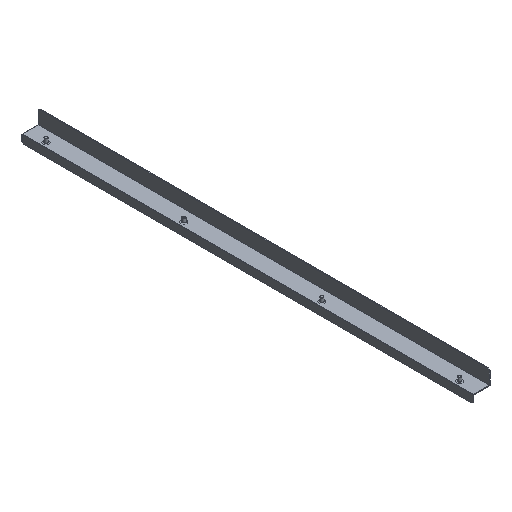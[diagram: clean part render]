
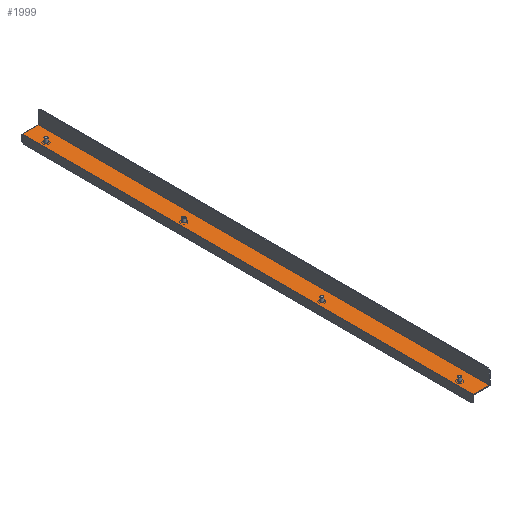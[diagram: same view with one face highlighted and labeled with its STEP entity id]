
A CAD part, isometric view. The second image highlights one B-rep face of the part: STEP entity #1999.
In plain terms, the highlighted planar face has unit normal (0, 0, 1).
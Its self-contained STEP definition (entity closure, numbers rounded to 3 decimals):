
#28 = DIRECTION ( 'NONE',  ( -1., 0., 0. ) ) ;
#121 = EDGE_CURVE ( 'NONE', #551, #3676, #1500, .T. ) ;
#156 = CARTESIAN_POINT ( 'NONE',  ( -66.513, 155.344, -6. ) ) ;
#239 = ORIENTED_EDGE ( 'NONE', *, *, #4318, .F. ) ;
#257 = VERTEX_POINT ( 'NONE', #1271 ) ;
#264 = FACE_BOUND ( 'NONE', #1101, .T. ) ;
#265 = CIRCLE ( 'NONE', #3702, 3.25 ) ;
#383 = VERTEX_POINT ( 'NONE', #4218 ) ;
#384 = CIRCLE ( 'NONE', #3596, 3.25 ) ;
#396 = DIRECTION ( 'NONE',  ( 0., 0., -1. ) ) ;
#411 = EDGE_CURVE ( 'NONE', #3611, #670, #4285, .T. ) ;
#449 = CARTESIAN_POINT ( 'NONE',  ( -69.763, -394.656, -6. ) ) ;
#510 = CIRCLE ( 'NONE', #2972, 3.25 ) ;
#523 = DIRECTION ( 'NONE',  ( 0., 0., -1. ) ) ;
#529 = DIRECTION ( 'NONE',  ( 0., 0., -1. ) ) ;
#536 = DIRECTION ( 'NONE',  ( 0., 0., -1. ) ) ;
#540 = LINE ( 'NONE', #1539, #4386 ) ;
#551 = VERTEX_POINT ( 'NONE', #1100 ) ;
#605 = FACE_BOUND ( 'NONE', #2836, .T. ) ;
#623 = CIRCLE ( 'NONE', #931, 3.25 ) ;
#650 = CARTESIAN_POINT ( 'NONE',  ( -66.513, -432.156, -6. ) ) ;
#670 = VERTEX_POINT ( 'NONE', #1489 ) ;
#699 = ORIENTED_EDGE ( 'NONE', *, *, #2670, .T. ) ;
#704 = CIRCLE ( 'NONE', #2208, 3.25 ) ;
#714 = VERTEX_POINT ( 'NONE', #2266 ) ;
#861 = CIRCLE ( 'NONE', #2129, 3.25 ) ;
#868 = ORIENTED_EDGE ( 'NONE', *, *, #3666, .T. ) ;
#928 = CARTESIAN_POINT ( 'NONE',  ( -45.013, 17.844, -6. ) ) ;
#931 = AXIS2_PLACEMENT_3D ( 'NONE', #156, #529, #2197 ) ;
#954 = DIRECTION ( 'NONE',  ( 0., 0., -1. ) ) ;
#1004 = AXIS2_PLACEMENT_3D ( 'NONE', #2403, #523, #4450 ) ;
#1045 = CARTESIAN_POINT ( 'NONE',  ( -66.513, -394.656, -6. ) ) ;
#1100 = CARTESIAN_POINT ( 'NONE',  ( -74.513, 467.844, -6. ) ) ;
#1101 = EDGE_LOOP ( 'NONE', ( #1953, #3111 ) ) ;
#1102 = EDGE_CURVE ( 'NONE', #1715, #383, #540, .T. ) ;
#1120 = CARTESIAN_POINT ( 'NONE',  ( -66.513, 155.344, -6. ) ) ;
#1132 = CARTESIAN_POINT ( 'NONE',  ( -45.013, 467.844, -6. ) ) ;
#1156 = VECTOR ( 'NONE', #1640, 1000. ) ;
#1227 = DIRECTION ( 'NONE',  ( 0., 0., -1. ) ) ;
#1247 = VERTEX_POINT ( 'NONE', #2444 ) ;
#1261 = EDGE_CURVE ( 'NONE', #3970, #1671, #510, .T. ) ;
#1271 = CARTESIAN_POINT ( 'NONE',  ( -45.013, 467.844, -6. ) ) ;
#1419 = LINE ( 'NONE', #2822, #3630 ) ;
#1445 = VERTEX_POINT ( 'NONE', #449 ) ;
#1487 = CARTESIAN_POINT ( 'NONE',  ( -74.513, 467.844, -6. ) ) ;
#1489 = CARTESIAN_POINT ( 'NONE',  ( -45.013, -432.156, -6. ) ) ;
#1500 = LINE ( 'NONE', #1132, #4311 ) ;
#1510 = DIRECTION ( 'NONE',  ( -1., 0., 0. ) ) ;
#1539 = CARTESIAN_POINT ( 'NONE',  ( -77.013, 17.844, -6. ) ) ;
#1570 = ORIENTED_EDGE ( 'NONE', *, *, #3625, .T. ) ;
#1572 = CARTESIAN_POINT ( 'NONE',  ( -46.013, -432.156, -6. ) ) ;
#1593 = CIRCLE ( 'NONE', #1004, 3.25 ) ;
#1600 = VECTOR ( 'NONE', #2089, 1000. ) ;
#1621 = CARTESIAN_POINT ( 'NONE',  ( -77.013, -432.156, -6. ) ) ;
#1640 = DIRECTION ( 'NONE',  ( 1., 0., 0. ) ) ;
#1671 = VERTEX_POINT ( 'NONE', #1689 ) ;
#1689 = CARTESIAN_POINT ( 'NONE',  ( -63.263, -119.656, -6. ) ) ;
#1698 = DIRECTION ( 'NONE',  ( 1., 0., 0. ) ) ;
#1715 = VERTEX_POINT ( 'NONE', #1621 ) ;
#1740 = CIRCLE ( 'NONE', #2638, 3.25 ) ;
#1763 = VERTEX_POINT ( 'NONE', #2510 ) ;
#1782 = ORIENTED_EDGE ( 'NONE', *, *, #2707, .F. ) ;
#1918 = CARTESIAN_POINT ( 'NONE',  ( -66.513, 467.844, -6. ) ) ;
#1953 = ORIENTED_EDGE ( 'NONE', *, *, #3520, .T. ) ;
#1962 = LINE ( 'NONE', #928, #4045 ) ;
#1999 = ADVANCED_FACE ( 'NONE', ( #2957, #2041, #605, #264, #2385 ), #3462, .T. ) ;
#2041 = FACE_BOUND ( 'NONE', #4492, .T. ) ;
#2089 = DIRECTION ( 'NONE',  ( -1., 0., 0. ) ) ;
#2114 = VECTOR ( 'NONE', #3938, 1000. ) ;
#2129 = AXIS2_PLACEMENT_3D ( 'NONE', #1120, #396, #2543 ) ;
#2197 = DIRECTION ( 'NONE',  ( 1., 0., 0. ) ) ;
#2208 = AXIS2_PLACEMENT_3D ( 'NONE', #4431, #1227, #3576 ) ;
#2214 = DIRECTION ( 'NONE',  ( 1., 0., 0. ) ) ;
#2266 = CARTESIAN_POINT ( 'NONE',  ( -74.513, -432.156, -6. ) ) ;
#2323 = ORIENTED_EDGE ( 'NONE', *, *, #1261, .T. ) ;
#2363 = CARTESIAN_POINT ( 'NONE',  ( -69.763, 155.344, -6. ) ) ;
#2385 = FACE_OUTER_BOUND ( 'NONE', #2485, .T. ) ;
#2403 = CARTESIAN_POINT ( 'NONE',  ( -66.513, 430.344, -6. ) ) ;
#2423 = DIRECTION ( 'NONE',  ( 0., 0., -1. ) ) ;
#2444 = CARTESIAN_POINT ( 'NONE',  ( -63.263, 430.344, -6. ) ) ;
#2485 = EDGE_LOOP ( 'NONE', ( #3170, #699, #3513, #239, #3390, #4514, #3963, #1782 ) ) ;
#2505 = CARTESIAN_POINT ( 'NONE',  ( -46.013, -432.156, -6. ) ) ;
#2510 = CARTESIAN_POINT ( 'NONE',  ( -63.263, 155.344, -6. ) ) ;
#2518 = CARTESIAN_POINT ( 'NONE',  ( -69.763, 430.344, -6. ) ) ;
#2543 = DIRECTION ( 'NONE',  ( 1., 0., 0. ) ) ;
#2638 = AXIS2_PLACEMENT_3D ( 'NONE', #3407, #536, #3742 ) ;
#2670 = EDGE_CURVE ( 'NONE', #551, #383, #3997, .T. ) ;
#2690 = VERTEX_POINT ( 'NONE', #2518 ) ;
#2707 = EDGE_CURVE ( 'NONE', #3676, #257, #4042, .T. ) ;
#2711 = EDGE_CURVE ( 'NONE', #2690, #1247, #1740, .T. ) ;
#2748 = EDGE_CURVE ( 'NONE', #257, #670, #1962, .T. ) ;
#2822 = CARTESIAN_POINT ( 'NONE',  ( -77.013, -432.156, -6. ) ) ;
#2836 = EDGE_LOOP ( 'NONE', ( #3148, #1570 ) ) ;
#2867 = EDGE_CURVE ( 'NONE', #4476, #1445, #384, .T. ) ;
#2930 = DIRECTION ( 'NONE',  ( 1., 0., 0. ) ) ;
#2935 = CARTESIAN_POINT ( 'NONE',  ( -66.513, -119.656, -6. ) ) ;
#2957 = FACE_BOUND ( 'NONE', #3252, .T. ) ;
#2972 = AXIS2_PLACEMENT_3D ( 'NONE', #3879, #2423, #1698 ) ;
#3107 = LINE ( 'NONE', #650, #1600 ) ;
#3111 = ORIENTED_EDGE ( 'NONE', *, *, #3658, .T. ) ;
#3128 = ORIENTED_EDGE ( 'NONE', *, *, #3359, .T. ) ;
#3140 = DIRECTION ( 'NONE',  ( 1., 0., 0. ) ) ;
#3148 = ORIENTED_EDGE ( 'NONE', *, *, #2867, .T. ) ;
#3170 = ORIENTED_EDGE ( 'NONE', *, *, #121, .F. ) ;
#3227 = CARTESIAN_POINT ( 'NONE',  ( -69.763, -119.656, -6. ) ) ;
#3234 = DIRECTION ( 'NONE',  ( 0., 0., 1. ) ) ;
#3240 = VECTOR ( 'NONE', #1510, 1000. ) ;
#3252 = EDGE_LOOP ( 'NONE', ( #3128, #3679 ) ) ;
#3359 = EDGE_CURVE ( 'NONE', #1247, #2690, #1593, .T. ) ;
#3361 = DIRECTION ( 'NONE',  ( 0., -1., 0. ) ) ;
#3390 = ORIENTED_EDGE ( 'NONE', *, *, #3984, .F. ) ;
#3407 = CARTESIAN_POINT ( 'NONE',  ( -66.513, 430.344, -6. ) ) ;
#3462 = PLANE ( 'NONE',  #3926 ) ;
#3513 = ORIENTED_EDGE ( 'NONE', *, *, #1102, .F. ) ;
#3520 = EDGE_CURVE ( 'NONE', #1763, #4409, #623, .T. ) ;
#3576 = DIRECTION ( 'NONE',  ( 1., 0., 0. ) ) ;
#3596 = AXIS2_PLACEMENT_3D ( 'NONE', #1045, #954, #3140 ) ;
#3611 = VERTEX_POINT ( 'NONE', #1572 ) ;
#3625 = EDGE_CURVE ( 'NONE', #1445, #4476, #704, .T. ) ;
#3630 = VECTOR ( 'NONE', #28, 1000. ) ;
#3658 = EDGE_CURVE ( 'NONE', #4409, #1763, #861, .T. ) ;
#3666 = EDGE_CURVE ( 'NONE', #1671, #3970, #265, .T. ) ;
#3676 = VERTEX_POINT ( 'NONE', #3685 ) ;
#3679 = ORIENTED_EDGE ( 'NONE', *, *, #2711, .T. ) ;
#3685 = CARTESIAN_POINT ( 'NONE',  ( -46.013, 467.844, -6. ) ) ;
#3702 = AXIS2_PLACEMENT_3D ( 'NONE', #2935, #4371, #4395 ) ;
#3742 = DIRECTION ( 'NONE',  ( 1., 0., 0. ) ) ;
#3813 = CARTESIAN_POINT ( 'NONE',  ( -66.513, 17.844, -6. ) ) ;
#3879 = CARTESIAN_POINT ( 'NONE',  ( -66.513, -119.656, -6. ) ) ;
#3926 = AXIS2_PLACEMENT_3D ( 'NONE', #3813, #3234, #2930 ) ;
#3938 = DIRECTION ( 'NONE',  ( 1., 0., 0. ) ) ;
#3957 = CARTESIAN_POINT ( 'NONE',  ( -63.263, -394.656, -6. ) ) ;
#3963 = ORIENTED_EDGE ( 'NONE', *, *, #2748, .F. ) ;
#3970 = VERTEX_POINT ( 'NONE', #3227 ) ;
#3984 = EDGE_CURVE ( 'NONE', #3611, #714, #1419, .T. ) ;
#3997 = LINE ( 'NONE', #1487, #3240 ) ;
#4042 = LINE ( 'NONE', #1918, #1156 ) ;
#4045 = VECTOR ( 'NONE', #3361, 1000. ) ;
#4218 = CARTESIAN_POINT ( 'NONE',  ( -77.013, 467.844, -6. ) ) ;
#4285 = LINE ( 'NONE', #2505, #2114 ) ;
#4311 = VECTOR ( 'NONE', #2214, 1000. ) ;
#4318 = EDGE_CURVE ( 'NONE', #714, #1715, #3107, .T. ) ;
#4371 = DIRECTION ( 'NONE',  ( 0., 0., -1. ) ) ;
#4386 = VECTOR ( 'NONE', #4420, 1000. ) ;
#4395 = DIRECTION ( 'NONE',  ( 1., 0., 0. ) ) ;
#4409 = VERTEX_POINT ( 'NONE', #2363 ) ;
#4420 = DIRECTION ( 'NONE',  ( 0., 1., 0. ) ) ;
#4431 = CARTESIAN_POINT ( 'NONE',  ( -66.513, -394.656, -6. ) ) ;
#4450 = DIRECTION ( 'NONE',  ( 1., 0., 0. ) ) ;
#4476 = VERTEX_POINT ( 'NONE', #3957 ) ;
#4492 = EDGE_LOOP ( 'NONE', ( #868, #2323 ) ) ;
#4514 = ORIENTED_EDGE ( 'NONE', *, *, #411, .T. ) ;
